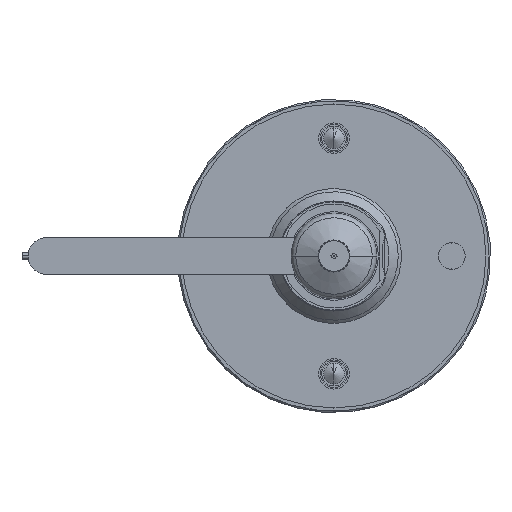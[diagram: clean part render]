
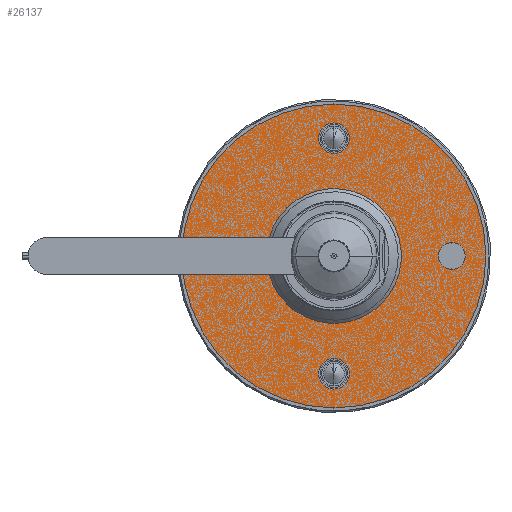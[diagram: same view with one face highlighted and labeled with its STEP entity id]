
A CAD part, front view. The second image highlights one B-rep face of the part: STEP entity #26137.
In plain terms, the highlighted planar face has unit normal (0, -1, 0) as drawn and (0, 0, -1) by its records, which use the part's own axes.
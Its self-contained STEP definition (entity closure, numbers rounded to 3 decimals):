
#10 = CARTESIAN_POINT ( 'NONE',  ( -38.5, 0., 0. ) ) ;
#148 = CARTESIAN_POINT ( 'NONE',  ( -38.5, 0., 0. ) ) ;
#157 = CIRCLE ( 'NONE', #1979, 16.5 ) ;
#318 = EDGE_CURVE ( 'NONE', #3113, #573, #17225, .T. ) ;
#573 = VERTEX_POINT ( 'NONE', #22037 ) ;
#811 = EDGE_CURVE ( 'NONE', #8959, #11248, #13079, .T. ) ;
#960 = AXIS2_PLACEMENT_3D ( 'NONE', #10, #12782, #21870 ) ;
#1097 = ORIENTED_EDGE ( 'NONE', *, *, #27933, .T. ) ;
#1526 = CIRCLE ( 'NONE', #27236, 5. ) ;
#1580 = ORIENTED_EDGE ( 'NONE', *, *, #14942, .T. ) ;
#1660 = CARTESIAN_POINT ( 'NONE',  ( 0., 0., 0. ) ) ;
#1780 = VERTEX_POINT ( 'NONE', #6843 ) ;
#1979 = AXIS2_PLACEMENT_3D ( 'NONE', #1660, #21227, #5959 ) ;
#2178 = EDGE_CURVE ( 'NONE', #7315, #3207, #157, .T. ) ;
#2328 = DIRECTION ( 'NONE',  ( 0., 0., 1. ) ) ;
#2499 = EDGE_CURVE ( 'NONE', #15781, #3099, #1526, .T. ) ;
#2851 = AXIS2_PLACEMENT_3D ( 'NONE', #25548, #12281, #27269 ) ;
#3099 = VERTEX_POINT ( 'NONE', #3818 ) ;
#3113 = VERTEX_POINT ( 'NONE', #12272 ) ;
#3207 = VERTEX_POINT ( 'NONE', #17324 ) ;
#3216 = EDGE_LOOP ( 'NONE', ( #18777, #9295 ) ) ;
#3281 = ORIENTED_EDGE ( 'NONE', *, *, #6264, .T. ) ;
#3502 = EDGE_CURVE ( 'NONE', #10803, #1780, #14249, .T. ) ;
#3801 = CARTESIAN_POINT ( 'NONE',  ( -43.5, 0., 0. ) ) ;
#3818 = CARTESIAN_POINT ( 'NONE',  ( 43.5, 0., 0. ) ) ;
#3827 = EDGE_CURVE ( 'NONE', #11687, #3831, #22108, .T. ) ;
#3831 = VERTEX_POINT ( 'NONE', #13756 ) ;
#4140 = DIRECTION ( 'NONE',  ( -1., 0., 0. ) ) ;
#4215 = EDGE_LOOP ( 'NONE', ( #28227, #3281 ) ) ;
#4223 = CARTESIAN_POINT ( 'NONE',  ( 33.5, 0., 0. ) ) ;
#4321 = CARTESIAN_POINT ( 'NONE',  ( 49.675, 0., 0. ) ) ;
#4588 = EDGE_LOOP ( 'NONE', ( #7591, #1580 ) ) ;
#4938 = DIRECTION ( 'NONE',  ( 0., 0., 1. ) ) ;
#5766 = DIRECTION ( 'NONE',  ( 0., 0., 1. ) ) ;
#5959 = DIRECTION ( 'NONE',  ( 1., 0., 0. ) ) ;
#6042 = CIRCLE ( 'NONE', #960, 5. ) ;
#6130 = CARTESIAN_POINT ( 'NONE',  ( 0., 0., 0. ) ) ;
#6147 = DIRECTION ( 'NONE',  ( -1., 0., 0. ) ) ;
#6264 = EDGE_CURVE ( 'NONE', #1780, #10803, #9683, .T. ) ;
#6424 = PLANE ( 'NONE',  #12199 ) ;
#6574 = CARTESIAN_POINT ( 'NONE',  ( 16.5, 0., 0. ) ) ;
#6611 = AXIS2_PLACEMENT_3D ( 'NONE', #22216, #13132, #15733 ) ;
#6843 = CARTESIAN_POINT ( 'NONE',  ( 4.4, -38.5, 0. ) ) ;
#7025 = CARTESIAN_POINT ( 'NONE',  ( 0., -38.5, 0. ) ) ;
#7300 = DIRECTION ( 'NONE',  ( -1., 0., 0. ) ) ;
#7315 = VERTEX_POINT ( 'NONE', #23166 ) ;
#7353 = AXIS2_PLACEMENT_3D ( 'NONE', #13829, #4938, #13681 ) ;
#7591 = ORIENTED_EDGE ( 'NONE', *, *, #3827, .T. ) ;
#7981 = ORIENTED_EDGE ( 'NONE', *, *, #318, .T. ) ;
#8304 = DIRECTION ( 'NONE',  ( 0., 0., -1. ) ) ;
#8798 = CARTESIAN_POINT ( 'NONE',  ( -4.4, -38.5, 0. ) ) ;
#8959 = VERTEX_POINT ( 'NONE', #4321 ) ;
#9060 = EDGE_CURVE ( 'NONE', #11248, #8959, #13354, .T. ) ;
#9295 = ORIENTED_EDGE ( 'NONE', *, *, #2178, .T. ) ;
#9683 = CIRCLE ( 'NONE', #19363, 4.4 ) ;
#9741 = DIRECTION ( 'NONE',  ( -1., 0., 0. ) ) ;
#10170 = EDGE_LOOP ( 'NONE', ( #19471, #1097 ) ) ;
#10803 = VERTEX_POINT ( 'NONE', #8798 ) ;
#11248 = VERTEX_POINT ( 'NONE', #20696 ) ;
#11687 = VERTEX_POINT ( 'NONE', #3801 ) ;
#12199 = AXIS2_PLACEMENT_3D ( 'NONE', #6574, #24253, #6147 ) ;
#12272 = CARTESIAN_POINT ( 'NONE',  ( -4.4, 38.5, 0. ) ) ;
#12281 = DIRECTION ( 'NONE',  ( 0., 0., 1. ) ) ;
#12432 = DIRECTION ( 'NONE',  ( 1., 0., 0. ) ) ;
#12734 = FACE_BOUND ( 'NONE', #10170, .T. ) ;
#12782 = DIRECTION ( 'NONE',  ( 0., 0., 1. ) ) ;
#13079 = CIRCLE ( 'NONE', #13484, 49.675 ) ;
#13132 = DIRECTION ( 'NONE',  ( 0., 0., 1. ) ) ;
#13354 = CIRCLE ( 'NONE', #23013, 49.675 ) ;
#13372 = DIRECTION ( 'NONE',  ( -1., 0., 0. ) ) ;
#13484 = AXIS2_PLACEMENT_3D ( 'NONE', #18101, #14057, #9741 ) ;
#13681 = DIRECTION ( 'NONE',  ( -1., 0., 0. ) ) ;
#13756 = CARTESIAN_POINT ( 'NONE',  ( -33.5, 0., 0. ) ) ;
#13829 = CARTESIAN_POINT ( 'NONE',  ( 0., -38.5, 0. ) ) ;
#14057 = DIRECTION ( 'NONE',  ( 0., 0., -1. ) ) ;
#14249 = CIRCLE ( 'NONE', #7353, 4.4 ) ;
#14412 = EDGE_CURVE ( 'NONE', #3207, #7315, #28046, .T. ) ;
#14910 = FACE_BOUND ( 'NONE', #4588, .T. ) ;
#14942 = EDGE_CURVE ( 'NONE', #3831, #11687, #6042, .T. ) ;
#15479 = FACE_BOUND ( 'NONE', #4215, .T. ) ;
#15733 = DIRECTION ( 'NONE',  ( -1., 0., 0. ) ) ;
#15781 = VERTEX_POINT ( 'NONE', #4223 ) ;
#15807 = ORIENTED_EDGE ( 'NONE', *, *, #9060, .T. ) ;
#17225 = CIRCLE ( 'NONE', #6611, 4.4 ) ;
#17324 = CARTESIAN_POINT ( 'NONE',  ( 16.5, 0., 0. ) ) ;
#17357 = FACE_OUTER_BOUND ( 'NONE', #17796, .T. ) ;
#17660 = DIRECTION ( 'NONE',  ( -1., 0., 0. ) ) ;
#17796 = EDGE_LOOP ( 'NONE', ( #24529, #15807 ) ) ;
#18101 = CARTESIAN_POINT ( 'NONE',  ( 0., 0., 0. ) ) ;
#18592 = EDGE_CURVE ( 'NONE', #573, #3113, #26754, .T. ) ;
#18777 = ORIENTED_EDGE ( 'NONE', *, *, #14412, .T. ) ;
#19315 = AXIS2_PLACEMENT_3D ( 'NONE', #6130, #28278, #12432 ) ;
#19363 = AXIS2_PLACEMENT_3D ( 'NONE', #7025, #19691, #17660 ) ;
#19471 = ORIENTED_EDGE ( 'NONE', *, *, #2499, .T. ) ;
#19691 = DIRECTION ( 'NONE',  ( 0., 0., 1. ) ) ;
#19808 = AXIS2_PLACEMENT_3D ( 'NONE', #148, #24718, #7300 ) ;
#20534 = AXIS2_PLACEMENT_3D ( 'NONE', #23740, #5766, #21029 ) ;
#20696 = CARTESIAN_POINT ( 'NONE',  ( -49.675, 0., 0. ) ) ;
#21029 = DIRECTION ( 'NONE',  ( -1., 0., 0. ) ) ;
#21227 = DIRECTION ( 'NONE',  ( 0., 0., 1. ) ) ;
#21870 = DIRECTION ( 'NONE',  ( -1., 0., 0. ) ) ;
#22037 = CARTESIAN_POINT ( 'NONE',  ( 4.4, 38.5, 0. ) ) ;
#22108 = CIRCLE ( 'NONE', #19808, 5. ) ;
#22216 = CARTESIAN_POINT ( 'NONE',  ( 0., 38.5, 0. ) ) ;
#22360 = CIRCLE ( 'NONE', #20534, 5. ) ;
#23013 = AXIS2_PLACEMENT_3D ( 'NONE', #26160, #8304, #4140 ) ;
#23166 = CARTESIAN_POINT ( 'NONE',  ( -16.5, 0., 0. ) ) ;
#23740 = CARTESIAN_POINT ( 'NONE',  ( 38.5, 0., 0. ) ) ;
#24253 = DIRECTION ( 'NONE',  ( 0., 0., -1. ) ) ;
#24503 = EDGE_LOOP ( 'NONE', ( #7981, #27199 ) ) ;
#24529 = ORIENTED_EDGE ( 'NONE', *, *, #811, .T. ) ;
#24718 = DIRECTION ( 'NONE',  ( 0., 0., 1. ) ) ;
#24897 = CARTESIAN_POINT ( 'NONE',  ( 38.5, 0., 0. ) ) ;
#25548 = CARTESIAN_POINT ( 'NONE',  ( 0., 38.5, 0. ) ) ;
#26137 = ADVANCED_FACE ( 'NONE', ( #17357, #15479, #26296, #12734, #14910, #26141 ), #6424, .T. ) ;
#26141 = FACE_BOUND ( 'NONE', #3216, .T. ) ;
#26160 = CARTESIAN_POINT ( 'NONE',  ( 0., 0., 0. ) ) ;
#26296 = FACE_BOUND ( 'NONE', #24503, .T. ) ;
#26754 = CIRCLE ( 'NONE', #2851, 4.4 ) ;
#27199 = ORIENTED_EDGE ( 'NONE', *, *, #18592, .T. ) ;
#27236 = AXIS2_PLACEMENT_3D ( 'NONE', #24897, #2328, #13372 ) ;
#27269 = DIRECTION ( 'NONE',  ( -1., 0., 0. ) ) ;
#27933 = EDGE_CURVE ( 'NONE', #3099, #15781, #22360, .T. ) ;
#28046 = CIRCLE ( 'NONE', #19315, 16.5 ) ;
#28227 = ORIENTED_EDGE ( 'NONE', *, *, #3502, .T. ) ;
#28278 = DIRECTION ( 'NONE',  ( 0., 0., 1. ) ) ;
